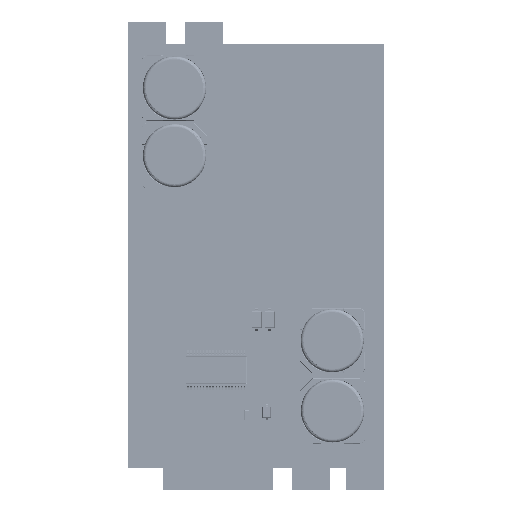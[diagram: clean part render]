
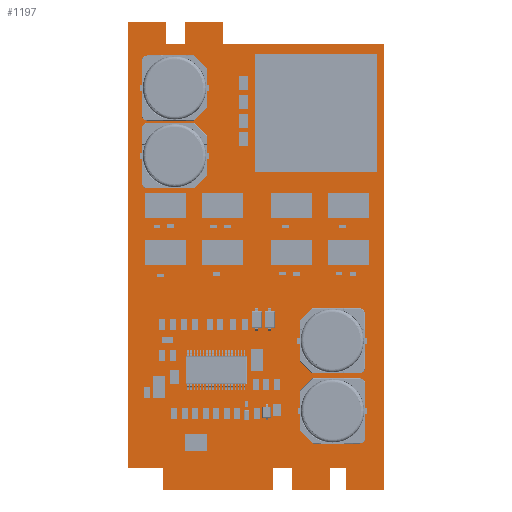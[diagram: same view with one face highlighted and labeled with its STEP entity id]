
A CAD part, top view. The second image highlights one B-rep face of the part: STEP entity #1197.
In plain terms, the highlighted planar face has unit normal (0, 0, 1).
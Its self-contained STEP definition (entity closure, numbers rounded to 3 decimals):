
#556 = VERTEX_POINT('',#557);
#557 = CARTESIAN_POINT('',(5.5,0.,1.6));
#563 = EDGE_CURVE('',#556,#564,#566,.T.);
#564 = VERTEX_POINT('',#565);
#565 = CARTESIAN_POINT('',(5.5,3.5,1.6));
#566 = LINE('',#567,#568);
#567 = CARTESIAN_POINT('',(5.5,0.,1.6));
#568 = VECTOR('',#569,1.);
#569 = DIRECTION('',(0.,1.,0.));
#594 = EDGE_CURVE('',#564,#595,#597,.T.);
#595 = VERTEX_POINT('',#596);
#596 = CARTESIAN_POINT('',(0.,3.5,1.6));
#597 = LINE('',#598,#599);
#598 = CARTESIAN_POINT('',(5.5,3.5,1.6));
#599 = VECTOR('',#600,1.);
#600 = DIRECTION('',(-1.,0.,0.));
#625 = EDGE_CURVE('',#595,#626,#628,.T.);
#626 = VERTEX_POINT('',#627);
#627 = CARTESIAN_POINT('',(0.,74.05,1.6));
#628 = LINE('',#629,#630);
#629 = CARTESIAN_POINT('',(0.,3.5,1.6));
#630 = VECTOR('',#631,1.);
#631 = DIRECTION('',(0.,1.,0.));
#656 = EDGE_CURVE('',#626,#657,#659,.T.);
#657 = VERTEX_POINT('',#658);
#658 = CARTESIAN_POINT('',(6.,74.05,1.6));
#659 = LINE('',#660,#661);
#660 = CARTESIAN_POINT('',(0.,74.05,1.6));
#661 = VECTOR('',#662,1.);
#662 = DIRECTION('',(1.,0.,0.));
#687 = EDGE_CURVE('',#657,#688,#690,.T.);
#688 = VERTEX_POINT('',#689);
#689 = CARTESIAN_POINT('',(6.,70.55,1.6));
#690 = LINE('',#691,#692);
#691 = CARTESIAN_POINT('',(6.,74.05,1.6));
#692 = VECTOR('',#693,1.);
#693 = DIRECTION('',(0.,-1.,0.));
#718 = EDGE_CURVE('',#688,#719,#721,.T.);
#719 = VERTEX_POINT('',#720);
#720 = CARTESIAN_POINT('',(9.,70.55,1.6));
#721 = LINE('',#722,#723);
#722 = CARTESIAN_POINT('',(6.,70.55,1.6));
#723 = VECTOR('',#724,1.);
#724 = DIRECTION('',(1.,0.,0.));
#749 = EDGE_CURVE('',#719,#750,#752,.T.);
#750 = VERTEX_POINT('',#751);
#751 = CARTESIAN_POINT('',(9.,74.05,1.6));
#752 = LINE('',#753,#754);
#753 = CARTESIAN_POINT('',(9.,70.55,1.6));
#754 = VECTOR('',#755,1.);
#755 = DIRECTION('',(0.,1.,0.));
#780 = EDGE_CURVE('',#750,#781,#783,.T.);
#781 = VERTEX_POINT('',#782);
#782 = CARTESIAN_POINT('',(15.,74.05,1.6));
#783 = LINE('',#784,#785);
#784 = CARTESIAN_POINT('',(9.,74.05,1.6));
#785 = VECTOR('',#786,1.);
#786 = DIRECTION('',(1.,0.,0.));
#811 = EDGE_CURVE('',#781,#812,#814,.T.);
#812 = VERTEX_POINT('',#813);
#813 = CARTESIAN_POINT('',(15.,70.5,1.6));
#814 = LINE('',#815,#816);
#815 = CARTESIAN_POINT('',(15.,74.05,1.6));
#816 = VECTOR('',#817,1.);
#817 = DIRECTION('',(0.,-1.,0.));
#842 = EDGE_CURVE('',#812,#843,#845,.T.);
#843 = VERTEX_POINT('',#844);
#844 = CARTESIAN_POINT('',(40.5,70.5,1.6));
#845 = LINE('',#846,#847);
#846 = CARTESIAN_POINT('',(15.,70.5,1.6));
#847 = VECTOR('',#848,1.);
#848 = DIRECTION('',(1.,0.,0.));
#873 = EDGE_CURVE('',#843,#874,#876,.T.);
#874 = VERTEX_POINT('',#875);
#875 = CARTESIAN_POINT('',(40.5,0.,1.6));
#876 = LINE('',#877,#878);
#877 = CARTESIAN_POINT('',(40.5,70.5,1.6));
#878 = VECTOR('',#879,1.);
#879 = DIRECTION('',(0.,-1.,0.));
#904 = EDGE_CURVE('',#874,#905,#907,.T.);
#905 = VERTEX_POINT('',#906);
#906 = CARTESIAN_POINT('',(34.5,0.,1.6));
#907 = LINE('',#908,#909);
#908 = CARTESIAN_POINT('',(40.5,0.,1.6));
#909 = VECTOR('',#910,1.);
#910 = DIRECTION('',(-1.,0.,0.));
#935 = EDGE_CURVE('',#905,#936,#938,.T.);
#936 = VERTEX_POINT('',#937);
#937 = CARTESIAN_POINT('',(34.5,3.5,1.6));
#938 = LINE('',#939,#940);
#939 = CARTESIAN_POINT('',(34.5,0.,1.6));
#940 = VECTOR('',#941,1.);
#941 = DIRECTION('',(0.,1.,0.));
#966 = EDGE_CURVE('',#936,#967,#969,.T.);
#967 = VERTEX_POINT('',#968);
#968 = CARTESIAN_POINT('',(32.,3.5,1.6));
#969 = LINE('',#970,#971);
#970 = CARTESIAN_POINT('',(34.5,3.5,1.6));
#971 = VECTOR('',#972,1.);
#972 = DIRECTION('',(-1.,0.,0.));
#997 = EDGE_CURVE('',#967,#998,#1000,.T.);
#998 = VERTEX_POINT('',#999);
#999 = CARTESIAN_POINT('',(32.,0.,1.6));
#1000 = LINE('',#1001,#1002);
#1001 = CARTESIAN_POINT('',(32.,3.5,1.6));
#1002 = VECTOR('',#1003,1.);
#1003 = DIRECTION('',(0.,-1.,0.));
#1028 = EDGE_CURVE('',#998,#1029,#1031,.T.);
#1029 = VERTEX_POINT('',#1030);
#1030 = CARTESIAN_POINT('',(26.,0.,1.6));
#1031 = LINE('',#1032,#1033);
#1032 = CARTESIAN_POINT('',(32.,0.,1.6));
#1033 = VECTOR('',#1034,1.);
#1034 = DIRECTION('',(-1.,0.,0.));
#1059 = EDGE_CURVE('',#1029,#1060,#1062,.T.);
#1060 = VERTEX_POINT('',#1061);
#1061 = CARTESIAN_POINT('',(26.,3.5,1.6));
#1062 = LINE('',#1063,#1064);
#1063 = CARTESIAN_POINT('',(26.,0.,1.6));
#1064 = VECTOR('',#1065,1.);
#1065 = DIRECTION('',(0.,1.,0.));
#1090 = EDGE_CURVE('',#1060,#1091,#1093,.T.);
#1091 = VERTEX_POINT('',#1092);
#1092 = CARTESIAN_POINT('',(22.9,3.5,1.6));
#1093 = LINE('',#1094,#1095);
#1094 = CARTESIAN_POINT('',(26.,3.5,1.6));
#1095 = VECTOR('',#1096,1.);
#1096 = DIRECTION('',(-1.,0.,0.));
#1121 = EDGE_CURVE('',#1091,#1122,#1124,.T.);
#1122 = VERTEX_POINT('',#1123);
#1123 = CARTESIAN_POINT('',(22.9,0.,1.6));
#1124 = LINE('',#1125,#1126);
#1125 = CARTESIAN_POINT('',(22.9,3.5,1.6));
#1126 = VECTOR('',#1127,1.);
#1127 = DIRECTION('',(0.,-1.,0.));
#1152 = EDGE_CURVE('',#1122,#556,#1153,.T.);
#1153 = LINE('',#1154,#1155);
#1154 = CARTESIAN_POINT('',(22.9,0.,1.6));
#1155 = VECTOR('',#1156,1.);
#1156 = DIRECTION('',(-1.,0.,0.));
#1197 = ADVANCED_FACE('',(#1198),#1220,.F.);
#1198 = FACE_BOUND('',#1199,.F.);
#1199 = EDGE_LOOP('',(#1200,#1201,#1202,#1203,#1204,#1205,#1206,#1207,
    #1208,#1209,#1210,#1211,#1212,#1213,#1214,#1215,#1216,#1217,#1218,
    #1219));
#1200 = ORIENTED_EDGE('',*,*,#563,.T.);
#1201 = ORIENTED_EDGE('',*,*,#594,.T.);
#1202 = ORIENTED_EDGE('',*,*,#625,.T.);
#1203 = ORIENTED_EDGE('',*,*,#656,.T.);
#1204 = ORIENTED_EDGE('',*,*,#687,.T.);
#1205 = ORIENTED_EDGE('',*,*,#718,.T.);
#1206 = ORIENTED_EDGE('',*,*,#749,.T.);
#1207 = ORIENTED_EDGE('',*,*,#780,.T.);
#1208 = ORIENTED_EDGE('',*,*,#811,.T.);
#1209 = ORIENTED_EDGE('',*,*,#842,.T.);
#1210 = ORIENTED_EDGE('',*,*,#873,.T.);
#1211 = ORIENTED_EDGE('',*,*,#904,.T.);
#1212 = ORIENTED_EDGE('',*,*,#935,.T.);
#1213 = ORIENTED_EDGE('',*,*,#966,.T.);
#1214 = ORIENTED_EDGE('',*,*,#997,.T.);
#1215 = ORIENTED_EDGE('',*,*,#1028,.T.);
#1216 = ORIENTED_EDGE('',*,*,#1059,.T.);
#1217 = ORIENTED_EDGE('',*,*,#1090,.T.);
#1218 = ORIENTED_EDGE('',*,*,#1121,.T.);
#1219 = ORIENTED_EDGE('',*,*,#1152,.T.);
#1220 = PLANE('',#1221);
#1221 = AXIS2_PLACEMENT_3D('',#1222,#1223,#1224);
#1222 = CARTESIAN_POINT('',(20.09,35.789,1.6));
#1223 = DIRECTION('',(-0.,-0.,-1.));
#1224 = DIRECTION('',(-1.,0.,0.));
